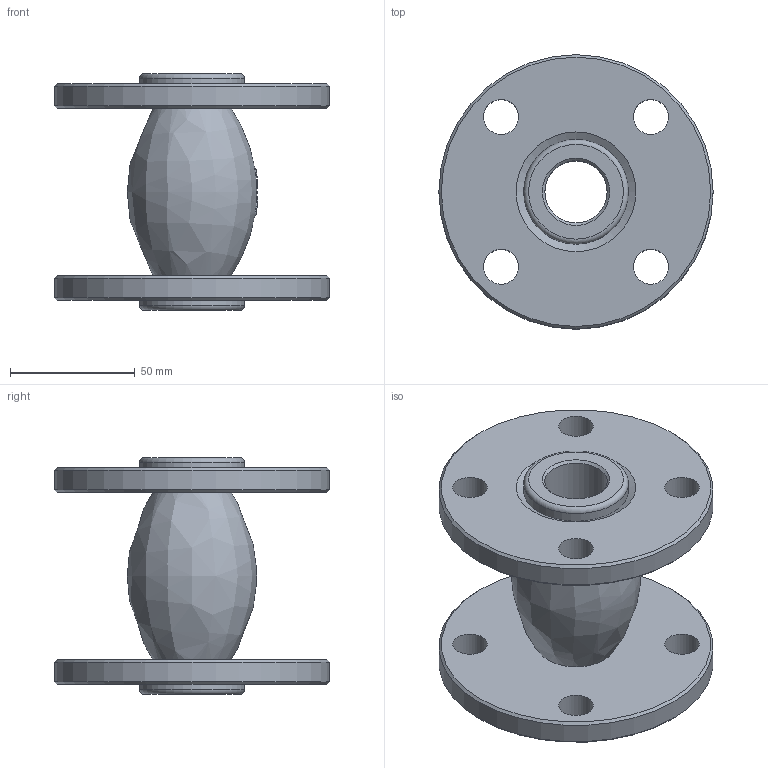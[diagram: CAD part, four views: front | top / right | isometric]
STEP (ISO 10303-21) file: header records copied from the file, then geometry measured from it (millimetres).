
FILE_DESCRIPTION(/* description */ ('D140-02159','CAx-IF Rec.Pracs.---Representation and Presentation of Product Manufacturing Information (PMI)---4.0---2014-10-13'),/* implementation_level */ '2;1');
FILE_NAME(/* name */ '',/* time_stamp */ '2026-04-30T10:51:20+03:00',/* author */ ('DN.RU'),/* organization */ ('DN.RU'),/* preprocessor_version */ 'ST-DEVELOPER v20',/* originating_system */ 'Autodesk Inventor 2025',/* authorisation */ '');
FILE_SCHEMA (('AP242_MANAGED_MODEL_BASED_3D_ENGINEERING_MIM_LF { 1 0 10303 442 1 1 4 }'));
Length unit declared in the file: millimetre
Products named in the file (1): CR-E25-F
Bounding box: 110 x 110 x 95 mm (x, y, z)
Volume: 250187.7 mm3; surface area: 61554.7 mm2
Topology: 1 solids, 1 shells, 100 faces, 267 edges, 176 vertices
Faces by surface type: plane 43, bspline 35, cylinder 13, cone 7, torus 2
Full cylindrical faces by diameter (mm): 14 x8, 25 x1, 42 x2, 110 x2
Entity records: 4289 total; most frequent: CARTESIAN_POINT 1641, ORIENTED_EDGE 534, DIRECTION 480, EDGE_CURVE 267, AXIS2_PLACEMENT_3D 200, VERTEX_POINT 176, EDGE_LOOP 125, CIRCLE 120
